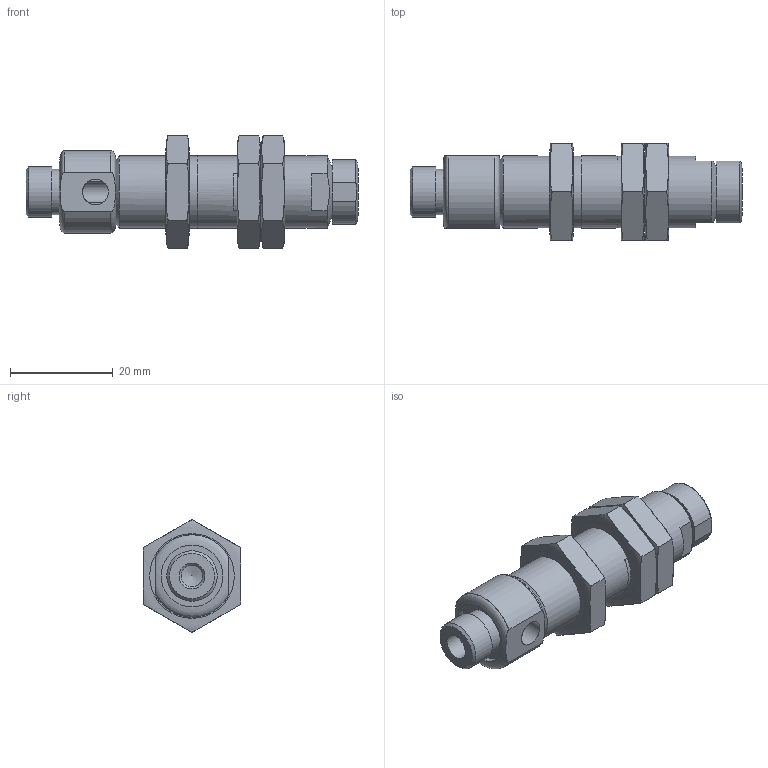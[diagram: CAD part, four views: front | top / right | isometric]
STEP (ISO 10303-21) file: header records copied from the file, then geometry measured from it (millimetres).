
FILE_DESCRIPTION( ( 'Unknown' ), '1' );
FILE_NAME( 'C:/Documents and Settings/Owner/官帕 拳搁/LEVEL SPRING HOMEPAGE/L18 Series/L1815/L1815.stp', 'Unknown', ( 'Unknown' ), ( 'Unknown' ), 'PSStep 10.0', 'Unknown', ' ' );
FILE_SCHEMA( ( 'AUTOMOTIVE_DESIGN { 1 0 10303 214 1 1 1 1 }' ) );
Length unit declared in the file: millimetre
Products named in the file (5): Assem1; sha; hou; ennd cap; NUT(M14XP1)
Bounding box: 64.5 x 19 x 21.94 mm (x, y, z)
Surface area: 13639.5 mm2 (no closed solid volume)
Topology: 0 solids, 149 shells, 149 faces, 551 edges, 478 vertices
Faces by surface type: plane 70, cylinder 41, cone 16, revolution 12, torus 10
Full cylindrical faces by diameter (mm): 4.2 x2, 5 x8, 6 x4, 8 x4, 8.8 x2, 9.8 x2, 10 x4, 12 x2, 14 x5
Entity records: 4291 total; most frequent: CARTESIAN_POINT 1799, DIRECTION 421, ORIENTED_EDGE 206, EDGE_CURVE 206, VERTEX_POINT 206, AXIS2_PLACEMENT_3D 184, FACE_BOUND 116, EDGE_LOOP 116
